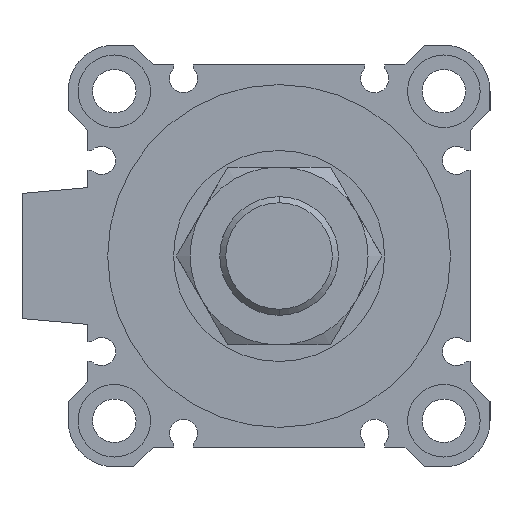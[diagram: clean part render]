
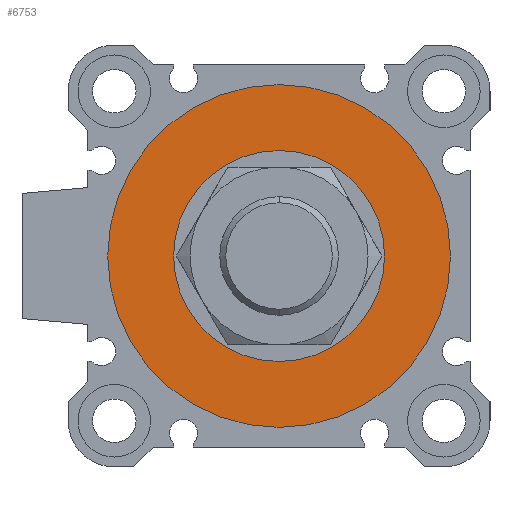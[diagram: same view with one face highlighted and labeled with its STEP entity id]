
A CAD part, left-side view. The second image highlights one B-rep face of the part: STEP entity #6753.
In plain terms, the highlighted planar face has unit normal (-1, 0, 0).
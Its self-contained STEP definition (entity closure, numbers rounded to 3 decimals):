
#48 = CARTESIAN_POINT ( 'NONE',  ( 3., 0., -26. ) ) ;
#410 = DIRECTION ( 'NONE',  ( 1., 0., 0. ) ) ;
#815 = AXIS2_PLACEMENT_3D ( 'NONE', #3131, #2516, #4223 ) ;
#907 = VERTEX_POINT ( 'NONE', #1362 ) ;
#909 = DIRECTION ( 'NONE',  ( 0., 0., -1. ) ) ;
#962 = AXIS2_PLACEMENT_3D ( 'NONE', #3225, #410, #3629 ) ;
#989 = FACE_OUTER_BOUND ( 'NONE', #4669, .T. ) ;
#1148 = CARTESIAN_POINT ( 'NONE',  ( 3., 0., 26. ) ) ;
#1362 = CARTESIAN_POINT ( 'NONE',  ( 3., 0., -16. ) ) ;
#2159 = ORIENTED_EDGE ( 'NONE', *, *, #5542, .T. ) ;
#2317 = AXIS2_PLACEMENT_3D ( 'NONE', #6217, #3494, #5229 ) ;
#2516 = DIRECTION ( 'NONE',  ( 1., 0., 0. ) ) ;
#3004 = DIRECTION ( 'NONE',  ( 1., 0., 0. ) ) ;
#3131 = CARTESIAN_POINT ( 'NONE',  ( 3., 0., 0. ) ) ;
#3158 = PLANE ( 'NONE',  #962 ) ;
#3225 = CARTESIAN_POINT ( 'NONE',  ( 3., 0., 0. ) ) ;
#3494 = DIRECTION ( 'NONE',  ( 1., 0., 0. ) ) ;
#3563 = ORIENTED_EDGE ( 'NONE', *, *, #5098, .T. ) ;
#3588 = CARTESIAN_POINT ( 'NONE',  ( 3., 0., 0. ) ) ;
#3597 = AXIS2_PLACEMENT_3D ( 'NONE', #3832, #5881, #909 ) ;
#3629 = DIRECTION ( 'NONE',  ( 0., 1., 0. ) ) ;
#3706 = EDGE_CURVE ( 'NONE', #6887, #5748, #5909, .T. ) ;
#3832 = CARTESIAN_POINT ( 'NONE',  ( 3., 0., 0. ) ) ;
#4172 = CIRCLE ( 'NONE', #2317, 16. ) ;
#4223 = DIRECTION ( 'NONE',  ( 0., 0., -1. ) ) ;
#4395 = EDGE_LOOP ( 'NONE', ( #3563, #2159 ) ) ;
#4538 = VERTEX_POINT ( 'NONE', #4716 ) ;
#4669 = EDGE_LOOP ( 'NONE', ( #7122, #4913 ) ) ;
#4716 = CARTESIAN_POINT ( 'NONE',  ( 3., 0., 16. ) ) ;
#4913 = ORIENTED_EDGE ( 'NONE', *, *, #3706, .F. ) ;
#5098 = EDGE_CURVE ( 'NONE', #4538, #907, #4172, .T. ) ;
#5229 = DIRECTION ( 'NONE',  ( 0., 0., -1. ) ) ;
#5542 = EDGE_CURVE ( 'NONE', #907, #4538, #6971, .T. ) ;
#5713 = EDGE_CURVE ( 'NONE', #5748, #6887, #6741, .T. ) ;
#5748 = VERTEX_POINT ( 'NONE', #1148 ) ;
#5881 = DIRECTION ( 'NONE',  ( 1., 0., 0. ) ) ;
#5909 = CIRCLE ( 'NONE', #815, 26. ) ;
#6217 = CARTESIAN_POINT ( 'NONE',  ( 3., 0., 0. ) ) ;
#6741 = CIRCLE ( 'NONE', #3597, 26. ) ;
#6753 = ADVANCED_FACE ( 'NONE', ( #989, #7089 ), #3158, .F. ) ;
#6827 = DIRECTION ( 'NONE',  ( 0., 0., -1. ) ) ;
#6852 = AXIS2_PLACEMENT_3D ( 'NONE', #3588, #3004, #6827 ) ;
#6887 = VERTEX_POINT ( 'NONE', #48 ) ;
#6971 = CIRCLE ( 'NONE', #6852, 16. ) ;
#7089 = FACE_BOUND ( 'NONE', #4395, .T. ) ;
#7122 = ORIENTED_EDGE ( 'NONE', *, *, #5713, .F. ) ;
